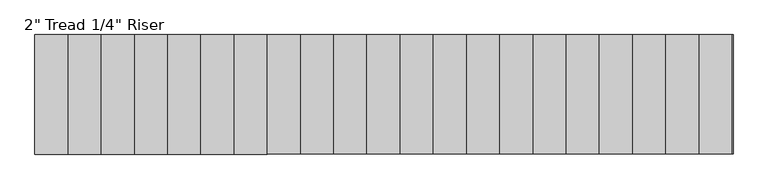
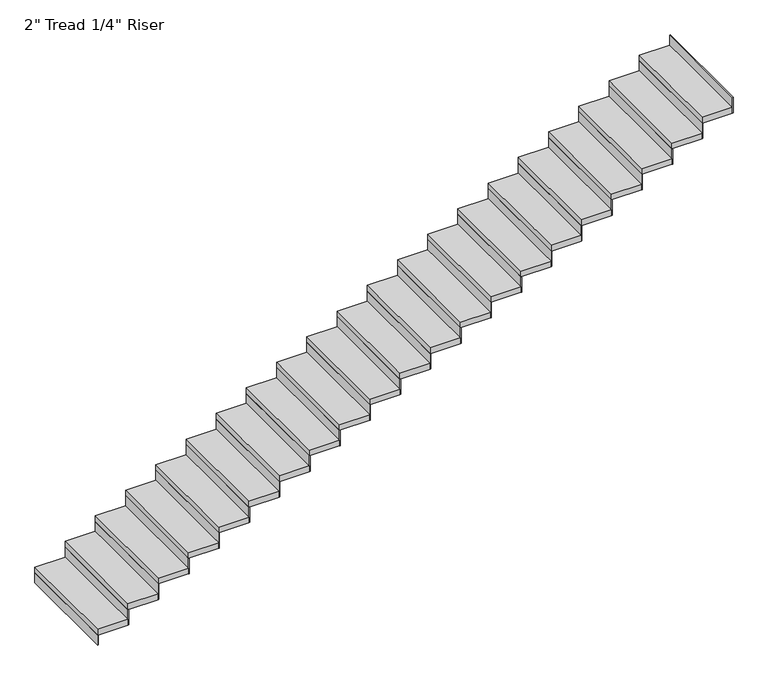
"""IFC4 building model written with IfcOpenShell, lengths in millimetres: stair flight geometry."""

from ifc_helpers import new_model, si_unit, frame, origin, origin_with_axes, place, context, project, spatial, polyline, outline, extrude, source, transform, mapped, element, save


def stair_flight_75746dea(model_context):
    return source(origin(), model_context, "Body", "SweptSolid", [
        extrude(outline(polyline([(47042.6286682, 14907.564969), (47036.2786682, 14907.564969), (47036.2786682, 15821.964969), (47042.6286682, 15821.964969), (47042.6286682, 14907.564969)])), origin_with_axes(), (0.0, 0.0, 1.0), 87.7454545),
        extrude(outline(polyline([(47290.2786682, 15821.964969), (47290.2786682, 14907.564969), (47036.2786682, 14907.564969), (47036.2786682, 15821.964969), (47290.2786682, 15821.964969)])), frame((0.0, 0.0, 87.7454545), z_axis=(0.0, 0.0, 1.0), x_axis=(1.0, 0.0, 0.0)), (0.0, 0.0, 1.0), 50.8),
        extrude(outline(polyline([(47296.6286682, 14907.564969), (47290.2786682, 14907.564969), (47290.2786682, 15821.964969), (47296.6286682, 15821.964969), (47296.6286682, 14907.564969)])), frame((0.0, 0.0, 87.7454545), z_axis=(0.0, 0.0, 1.0), x_axis=(1.0, 0.0, 0.0)), (0.0, 0.0, 1.0), 138.5454545),
        extrude(outline(polyline([(47544.2786682, 15821.964969), (47544.2786682, 14907.564969), (47290.2786682, 14907.564969), (47290.2786682, 15821.964969), (47544.2786682, 15821.964969)])), frame((0.0, 0.0, 226.2909091), z_axis=(0.0, 0.0, 1.0), x_axis=(1.0, 0.0, 0.0)), (0.0, 0.0, 1.0), 50.8),
        extrude(outline(polyline([(47550.6286682, 14907.564969), (47544.2786682, 14907.564969), (47544.2786682, 15821.964969), (47550.6286682, 15821.964969), (47550.6286682, 14907.564969)])), frame((0.0, 0.0, 226.2909091), z_axis=(0.0, 0.0, 1.0), x_axis=(1.0, 0.0, 0.0)), (0.0, 0.0, 1.0), 138.5454545),
        extrude(outline(polyline([(47798.2786682, 15821.964969), (47798.2786682, 14907.564969), (47544.2786682, 14907.564969), (47544.2786682, 15821.964969), (47798.2786682, 15821.964969)])), frame((0.0, 0.0, 364.8363636), z_axis=(0.0, 0.0, 1.0), x_axis=(1.0, 0.0, 0.0)), (0.0, 0.0, 1.0), 50.8),
        extrude(outline(polyline([(47804.6286682, 14907.564969), (47798.2786682, 14907.564969), (47798.2786682, 15821.964969), (47804.6286682, 15821.964969), (47804.6286682, 14907.564969)])), frame((0.0, 0.0, 364.8363636), z_axis=(0.0, 0.0, 1.0), x_axis=(1.0, 0.0, 0.0)), (0.0, 0.0, 1.0), 138.5454545),
        extrude(outline(polyline([(48052.2786682, 15821.964969), (48052.2786682, 14907.564969), (47798.2786682, 14907.564969), (47798.2786682, 15821.964969), (48052.2786682, 15821.964969)])), frame((0.0, 0.0, 503.3818182), z_axis=(0.0, 0.0, 1.0), x_axis=(1.0, 0.0, 0.0)), (0.0, 0.0, 1.0), 50.8),
        extrude(outline(polyline([(48058.6286682, 14907.564969), (48052.2786682, 14907.564969), (48052.2786682, 15821.964969), (48058.6286682, 15821.964969), (48058.6286682, 14907.564969)])), frame((0.0, 0.0, 503.3818182), z_axis=(0.0, 0.0, 1.0), x_axis=(1.0, 0.0, 0.0)), (0.0, 0.0, 1.0), 138.5454545),
        extrude(outline(polyline([(48306.2786682, 15821.964969), (48306.2786682, 14907.564969), (48052.2786682, 14907.564969), (48052.2786682, 15821.964969), (48306.2786682, 15821.964969)])), frame((0.0, 0.0, 641.9272727), z_axis=(0.0, 0.0, 1.0), x_axis=(1.0, 0.0, 0.0)), (0.0, 0.0, 1.0), 50.8),
        extrude(outline(polyline([(48312.6286682, 14907.564969), (48306.2786682, 14907.564969), (48306.2786682, 15821.964969), (48312.6286682, 15821.964969), (48312.6286682, 14907.564969)])), frame((0.0, 0.0, 641.9272727), z_axis=(0.0, 0.0, 1.0), x_axis=(1.0, 0.0, 0.0)), (0.0, 0.0, 1.0), 138.5454545),
        extrude(outline(polyline([(48560.2786682, 15821.964969), (48560.2786682, 14907.564969), (48306.2786682, 14907.564969), (48306.2786682, 15821.964969), (48560.2786682, 15821.964969)])), frame((0.0, 0.0, 780.4727273), z_axis=(0.0, 0.0, 1.0), x_axis=(1.0, 0.0, 0.0)), (0.0, 0.0, 1.0), 50.8),
        extrude(outline(polyline([(48566.6286682, 14907.564969), (48560.2786682, 14907.564969), (48560.2786682, 15821.964969), (48566.6286682, 15821.964969), (48566.6286682, 14907.564969)])), frame((0.0, 0.0, 780.4727273), z_axis=(0.0, 0.0, 1.0), x_axis=(1.0, 0.0, 0.0)), (0.0, 0.0, 1.0), 138.5454545),
        extrude(outline(polyline([(48814.2786682, 15821.964969), (48814.2786682, 14907.564969), (48560.2786682, 14907.564969), (48560.2786682, 15821.964969), (48814.2786682, 15821.964969)])), frame((0.0, 0.0, 919.0181818), z_axis=(0.0, 0.0, 1.0), x_axis=(1.0, 0.0, 0.0)), (0.0, 0.0, 1.0), 50.8),
        extrude(outline(polyline([(48820.6286682, 14907.564969), (48814.2786682, 14907.564969), (48814.2786682, 15821.964969), (48820.6286682, 15821.964969), (48820.6286682, 14907.564969)])), frame((0.0, 0.0, 919.0181818), z_axis=(0.0, 0.0, 1.0), x_axis=(1.0, 0.0, 0.0)), (0.0, 0.0, 1.0), 138.5454545),
        extrude(outline(polyline([(49068.2786682, 15821.964969), (49068.2786682, 14907.564969), (48814.2786682, 14907.564969), (48814.2786682, 15821.964969), (49068.2786682, 15821.964969)])), frame((0.0, 0.0, 1057.5636364), z_axis=(0.0, 0.0, 1.0), x_axis=(1.0, 0.0, 0.0)), (0.0, 0.0, 1.0), 50.8),
        extrude(outline(polyline([(49074.6286682, 14907.564969), (49068.2786682, 14907.564969), (49068.2786682, 15821.964969), (49074.6286682, 15821.964969), (49074.6286682, 14907.564969)])), frame((0.0, 0.0, 1057.5636364), z_axis=(0.0, 0.0, 1.0), x_axis=(1.0, 0.0, 0.0)), (0.0, 0.0, 1.0), 138.5454545),
        extrude(outline(polyline([(49322.2786682, 15821.964969), (49322.2786682, 14907.564969), (49068.2786682, 14907.564969), (49068.2786682, 15821.964969), (49322.2786682, 15821.964969)])), frame((0.0, 0.0, 1196.1090909), z_axis=(0.0, 0.0, 1.0), x_axis=(1.0, 0.0, 0.0)), (0.0, 0.0, 1.0), 50.8),
        extrude(outline(polyline([(49328.6286682, 14907.564969), (49322.2786682, 14907.564969), (49322.2786682, 15821.964969), (49328.6286682, 15821.964969), (49328.6286682, 14907.564969)])), frame((0.0, 0.0, 1196.1090909), z_axis=(0.0, 0.0, 1.0), x_axis=(1.0, 0.0, 0.0)), (0.0, 0.0, 1.0), 138.5454545),
        extrude(outline(polyline([(49576.2786682, 15821.964969), (49576.2786682, 14907.564969), (49322.2786682, 14907.564969), (49322.2786682, 15821.964969), (49576.2786682, 15821.964969)])), frame((0.0, 0.0, 1334.6545455), z_axis=(0.0, 0.0, 1.0), x_axis=(1.0, 0.0, 0.0)), (0.0, 0.0, 1.0), 50.8),
        extrude(outline(polyline([(49582.6286682, 14907.564969), (49576.2786682, 14907.564969), (49576.2786682, 15821.964969), (49582.6286682, 15821.964969), (49582.6286682, 14907.564969)])), frame((0.0, 0.0, 1334.6545455), z_axis=(0.0, 0.0, 1.0), x_axis=(1.0, 0.0, 0.0)), (0.0, 0.0, 1.0), 138.5454545),
        extrude(outline(polyline([(49830.2786682, 15821.964969), (49830.2786682, 14907.564969), (49576.2786682, 14907.564969), (49576.2786682, 15821.964969), (49830.2786682, 15821.964969)])), frame((0.0, 0.0, 1473.2), z_axis=(0.0, 0.0, 1.0), x_axis=(1.0, 0.0, 0.0)), (0.0, 0.0, 1.0), 50.8),
        extrude(outline(polyline([(49836.6286682, 14907.564969), (49830.2786682, 14907.564969), (49830.2786682, 15821.964969), (49836.6286682, 15821.964969), (49836.6286682, 14907.564969)])), frame((0.0, 0.0, 1473.2), z_axis=(0.0, 0.0, 1.0), x_axis=(1.0, 0.0, 0.0)), (0.0, 0.0, 1.0), 138.5454545),
        extrude(outline(polyline([(50084.2786682, 15821.964969), (50084.2786682, 14907.564969), (49830.2786682, 14907.564969), (49830.2786682, 15821.964969), (50084.2786682, 15821.964969)])), frame((0.0, 0.0, 1611.7454545), z_axis=(0.0, 0.0, 1.0), x_axis=(1.0, 0.0, 0.0)), (0.0, 0.0, 1.0), 50.8),
        extrude(outline(polyline([(50090.6286682, 14907.564969), (50084.2786682, 14907.564969), (50084.2786682, 15821.964969), (50090.6286682, 15821.964969), (50090.6286682, 14907.564969)])), frame((0.0, 0.0, 1611.7454545), z_axis=(0.0, 0.0, 1.0), x_axis=(1.0, 0.0, 0.0)), (0.0, 0.0, 1.0), 138.5454545),
        extrude(outline(polyline([(50338.2786682, 15821.964969), (50338.2786682, 14907.564969), (50084.2786682, 14907.564969), (50084.2786682, 15821.964969), (50338.2786682, 15821.964969)])), frame((0.0, 0.0, 1750.2909091), z_axis=(0.0, 0.0, 1.0), x_axis=(1.0, 0.0, 0.0)), (0.0, 0.0, 1.0), 50.8),
        extrude(outline(polyline([(50344.6286682, 14907.564969), (50338.2786682, 14907.564969), (50338.2786682, 15821.964969), (50344.6286682, 15821.964969), (50344.6286682, 14907.564969)])), frame((0.0, 0.0, 1750.2909091), z_axis=(0.0, 0.0, 1.0), x_axis=(1.0, 0.0, 0.0)), (0.0, 0.0, 1.0), 138.5454545),
        extrude(outline(polyline([(50592.2786682, 15821.964969), (50592.2786682, 14907.564969), (50338.2786682, 14907.564969), (50338.2786682, 15821.964969), (50592.2786682, 15821.964969)])), frame((0.0, 0.0, 1888.8363636), z_axis=(0.0, 0.0, 1.0), x_axis=(1.0, 0.0, 0.0)), (0.0, 0.0, 1.0), 50.8),
        extrude(outline(polyline([(50598.6286682, 14907.564969), (50592.2786682, 14907.564969), (50592.2786682, 15821.964969), (50598.6286682, 15821.964969), (50598.6286682, 14907.564969)])), frame((0.0, 0.0, 1888.8363636), z_axis=(0.0, 0.0, 1.0), x_axis=(1.0, 0.0, 0.0)), (0.0, 0.0, 1.0), 138.5454545),
        extrude(outline(polyline([(50846.2786682, 15821.964969), (50846.2786682, 14907.564969), (50592.2786682, 14907.564969), (50592.2786682, 15821.964969), (50846.2786682, 15821.964969)])), frame((0.0, 0.0, 2027.3818182), z_axis=(0.0, 0.0, 1.0), x_axis=(1.0, 0.0, 0.0)), (0.0, 0.0, 1.0), 50.8),
        extrude(outline(polyline([(50852.6286682, 14907.564969), (50846.2786682, 14907.564969), (50846.2786682, 15821.964969), (50852.6286682, 15821.964969), (50852.6286682, 14907.564969)])), frame((0.0, 0.0, 2027.3818182), z_axis=(0.0, 0.0, 1.0), x_axis=(1.0, 0.0, 0.0)), (0.0, 0.0, 1.0), 138.5454545),
        extrude(outline(polyline([(51100.2786682, 15821.964969), (51100.2786682, 14907.564969), (50846.2786682, 14907.564969), (50846.2786682, 15821.964969), (51100.2786682, 15821.964969)])), frame((0.0, 0.0, 2165.9272727), z_axis=(0.0, 0.0, 1.0), x_axis=(1.0, 0.0, 0.0)), (0.0, 0.0, 1.0), 50.8),
        extrude(outline(polyline([(51106.6286682, 14907.564969), (51100.2786682, 14907.564969), (51100.2786682, 15821.964969), (51106.6286682, 15821.964969), (51106.6286682, 14907.564969)])), frame((0.0, 0.0, 2165.9272727), z_axis=(0.0, 0.0, 1.0), x_axis=(1.0, 0.0, 0.0)), (0.0, 0.0, 1.0), 138.5454545),
        extrude(outline(polyline([(51354.2786682, 15821.964969), (51354.2786682, 14907.564969), (51100.2786682, 14907.564969), (51100.2786682, 15821.964969), (51354.2786682, 15821.964969)])), frame((0.0, 0.0, 2304.4727273), z_axis=(0.0, 0.0, 1.0), x_axis=(1.0, 0.0, 0.0)), (0.0, 0.0, 1.0), 50.8),
        extrude(outline(polyline([(51360.6286682, 14907.564969), (51354.2786682, 14907.564969), (51354.2786682, 15821.964969), (51360.6286682, 15821.964969), (51360.6286682, 14907.564969)])), frame((0.0, 0.0, 2304.4727273), z_axis=(0.0, 0.0, 1.0), x_axis=(1.0, 0.0, 0.0)), (0.0, 0.0, 1.0), 138.5454545),
        extrude(outline(polyline([(51608.2786682, 15821.964969), (51608.2786682, 14907.564969), (51354.2786682, 14907.564969), (51354.2786682, 15821.964969), (51608.2786682, 15821.964969)])), frame((0.0, 0.0, 2443.0181818), z_axis=(0.0, 0.0, 1.0), x_axis=(1.0, 0.0, 0.0)), (0.0, 0.0, 1.0), 50.8),
        extrude(outline(polyline([(51614.6286682, 14907.564969), (51608.2786682, 14907.564969), (51608.2786682, 15821.964969), (51614.6286682, 15821.964969), (51614.6286682, 14907.564969)])), frame((0.0, 0.0, 2443.0181818), z_axis=(0.0, 0.0, 1.0), x_axis=(1.0, 0.0, 0.0)), (0.0, 0.0, 1.0), 138.5454545),
        extrude(outline(polyline([(51862.2786682, 15821.964969), (51862.2786682, 14907.564969), (51608.2786682, 14907.564969), (51608.2786682, 15821.964969), (51862.2786682, 15821.964969)])), frame((0.0, 0.0, 2581.5636364), z_axis=(0.0, 0.0, 1.0), x_axis=(1.0, 0.0, 0.0)), (0.0, 0.0, 1.0), 50.8),
        extrude(outline(polyline([(51868.6286682, 14907.564969), (51862.2786682, 14907.564969), (51862.2786682, 15821.964969), (51868.6286682, 15821.964969), (51868.6286682, 14907.564969)])), frame((0.0, 0.0, 2581.5636364), z_axis=(0.0, 0.0, 1.0), x_axis=(1.0, 0.0, 0.0)), (0.0, 0.0, 1.0), 138.5454545),
        extrude(outline(polyline([(52116.2786682, 15821.964969), (52116.2786682, 14907.564969), (51862.2786682, 14907.564969), (51862.2786682, 15821.964969), (52116.2786682, 15821.964969)])), frame((0.0, 0.0, 2720.1090909), z_axis=(0.0, 0.0, 1.0), x_axis=(1.0, 0.0, 0.0)), (0.0, 0.0, 1.0), 50.8),
        extrude(outline(polyline([(52122.6286682, 14907.564969), (52116.2786682, 14907.564969), (52116.2786682, 15821.964969), (52122.6286682, 15821.964969), (52122.6286682, 14907.564969)])), frame((0.0, 0.0, 2720.1090909), z_axis=(0.0, 0.0, 1.0), x_axis=(1.0, 0.0, 0.0)), (0.0, 0.0, 1.0), 138.5454545),
        extrude(outline(polyline([(52376.6286682, 14907.564969), (52370.2786682, 14907.564969), (52370.2786682, 15821.964969), (52376.6286682, 15821.964969), (52376.6286682, 14907.564969)])), frame((0.0, 0.0, 2858.6545455), z_axis=(0.0, 0.0, 1.0), x_axis=(1.0, 0.0, 0.0)), (0.0, 0.0, 1.0), 138.5454545),
        extrude(outline(polyline([(52370.2786682, 15821.964969), (52370.2786682, 14907.564969), (52116.2786682, 14907.564969), (52116.2786682, 15821.964969), (52370.2786682, 15821.964969)])), frame((0.0, 0.0, 2858.6545455), z_axis=(0.0, 0.0, 1.0), x_axis=(1.0, 0.0, 0.0)), (0.0, 0.0, 1.0), 50.8),
    ])


if __name__ == "__main__":
    model = new_model("IFC4")
    model_context = context("Model", 3, world=origin())
    ifc_project = project(units=[si_unit("LENGTHUNIT", "METRE", prefix="MILLI")], contexts=[model_context])
    site = spatial("IfcSite", under=ifc_project)
    building = spatial("IfcBuilding", under=site)
    placement = place(None, origin())
    stair_flight_shape = stair_flight_75746dea(model_context)
    element("IfcStairFlight", 1, ObjectType="2\" Tread 1/4\" Riser", at=placement, inside=building, context=model_context, shape_type="MappedRepresentation", body=[
        mapped(stair_flight_shape, transform((0.0, 0.0, 0.0), x_axis=(1.0, 0.0, 0.0), y_axis=(0.0, 1.0, 0.0), z_axis=(0.0, 0.0, 1.0))),
    ])
    save(model, "model.ifc")
